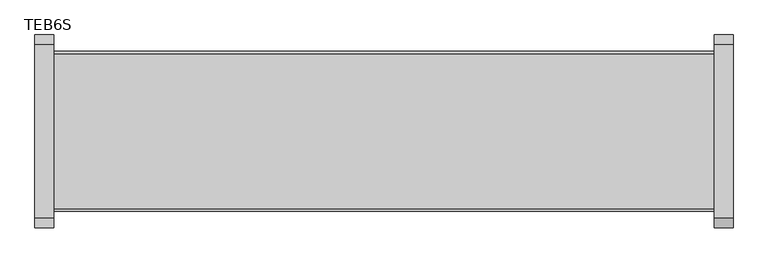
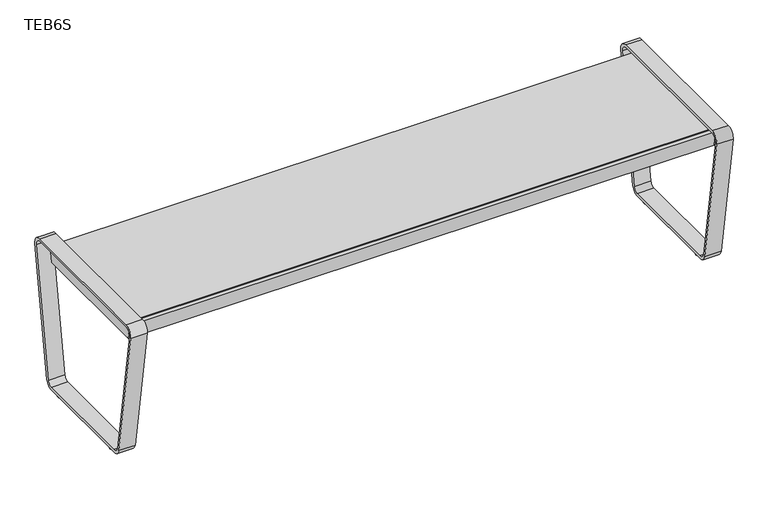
"""IFC4 building model written with IfcOpenShell, lengths in millimetres: furniture geometry, Stance_HC-Terrace-Straight_Bench_Steel : TEB6S."""

from ifc_helpers import new_model, si_unit, point, frame, frame_2d, origin, origin_with_axes, place, context, project, spatial, polyline, circle_curve, trimmed, segment, composite_curve, outline, extrude, source, transform, mapped, element, save


def teb6s_661dd856(model_context):
    return source(origin(), model_context, "Body", "SweptSolid", [
        extrude(outline(polyline([(1455.7375, -50.90414), (1455.7375, -467.25586), (1366.8375, -467.25586), (1366.8375, -50.90414), (1455.7375, -50.90414)])), frame((0.0, 0.0, 432.435), z_axis=(0.0, 0.0, 1.0), x_axis=(1.0, 0.0, 0.0)), (0.0, 0.0, 1.0), 3.175),
        extrude(outline(composite_curve([segment(polyline([(-467.25586, 432.435), (-50.90414, 432.435), (-57.0623598, 397.51)]), True, "CONTINUOUS"), segment(trimmed(circle_curve(frame_2d((-259.08, 1997.8972816)), 1613.0872816), [point((-57.0623598, 397.51))], [point((-461.0976402, 397.51))], False, "CARTESIAN"), True, "CONTINUOUS"), segment(polyline([(-461.0976402, 397.51), (-467.25586, 432.435)]), True, "CONTINUOUS")], self_intersect=False)), frame((1408.8999, 0.0, 0.0), z_axis=(1.0, 0.0, 0.0), x_axis=(0.0, 1.0, 0.0)), (0.0, 0.0, 1.0), 4.7752),
        extrude(outline(polyline([(1219.2, -50.90414), (1219.2, -467.25586), (1130.3, -467.25586), (1130.3, -50.90414), (1219.2, -50.90414)])), frame((0.0, 0.0, 432.435), z_axis=(0.0, 0.0, 1.0), x_axis=(1.0, 0.0, 0.0)), (0.0, 0.0, 1.0), 3.175),
        extrude(outline(composite_curve([segment(polyline([(-467.25586, 432.435), (-50.90414, 432.435), (-57.0623598, 397.51)]), True, "CONTINUOUS"), segment(trimmed(circle_curve(frame_2d((-259.08, 1997.8972816)), 1613.0872816), [point((-57.0623598, 397.51))], [point((-461.0976402, 397.51))], False, "CARTESIAN"), True, "CONTINUOUS"), segment(polyline([(-461.0976402, 397.51), (-467.25586, 432.435)]), True, "CONTINUOUS")], self_intersect=False)), frame((1172.3624, 0.0, 0.0), z_axis=(1.0, 0.0, 0.0), x_axis=(0.0, 1.0, 0.0)), (0.0, 0.0, 1.0), 4.7752),
        extrude(outline(polyline([(982.6625, -50.90414), (982.6625, -467.25586), (893.7625, -467.25586), (893.7625, -50.90414), (982.6625, -50.90414)])), frame((0.0, 0.0, 432.435), z_axis=(0.0, 0.0, 1.0), x_axis=(1.0, 0.0, 0.0)), (0.0, 0.0, 1.0), 3.175),
        extrude(outline(composite_curve([segment(polyline([(-467.25586, 432.435), (-50.90414, 432.435), (-57.0623598, 397.51)]), True, "CONTINUOUS"), segment(trimmed(circle_curve(frame_2d((-259.08, 1997.8972816)), 1613.0872816), [point((-57.0623598, 397.51))], [point((-461.0976402, 397.51))], False, "CARTESIAN"), True, "CONTINUOUS"), segment(polyline([(-461.0976402, 397.51), (-467.25586, 432.435)]), True, "CONTINUOUS")], self_intersect=False)), frame((935.8249, 0.0, 0.0), z_axis=(1.0, 0.0, 0.0), x_axis=(0.0, 1.0, 0.0)), (0.0, 0.0, 1.0), 4.7752),
        extrude(outline(polyline([(746.125, -50.90414), (746.125, -467.25586), (657.225, -467.25586), (657.225, -50.90414), (746.125, -50.90414)])), frame((0.0, 0.0, 432.435), z_axis=(0.0, 0.0, 1.0), x_axis=(1.0, 0.0, 0.0)), (0.0, 0.0, 1.0), 3.175),
        extrude(outline(composite_curve([segment(polyline([(-467.25586, 432.435), (-50.90414, 432.435), (-57.0623598, 397.51)]), True, "CONTINUOUS"), segment(trimmed(circle_curve(frame_2d((-259.08, 1997.8972816)), 1613.0872816), [point((-57.0623598, 397.51))], [point((-461.0976402, 397.51))], False, "CARTESIAN"), True, "CONTINUOUS"), segment(polyline([(-461.0976402, 397.51), (-467.25586, 432.435)]), True, "CONTINUOUS")], self_intersect=False)), frame((699.2874, 0.0, 0.0), z_axis=(1.0, 0.0, 0.0), x_axis=(0.0, 1.0, 0.0)), (0.0, 0.0, 1.0), 4.7752),
        extrude(outline(polyline([(509.5875, -50.90414), (509.5875, -467.25586), (420.6875, -467.25586), (420.6875, -50.90414), (509.5875, -50.90414)])), frame((0.0, 0.0, 432.435), z_axis=(0.0, 0.0, 1.0), x_axis=(1.0, 0.0, 0.0)), (0.0, 0.0, 1.0), 3.175),
        extrude(outline(composite_curve([segment(polyline([(-467.25586, 432.435), (-50.90414, 432.435), (-57.0623598, 397.51)]), True, "CONTINUOUS"), segment(trimmed(circle_curve(frame_2d((-259.08, 1997.8972816)), 1613.0872816), [point((-57.0623598, 397.51))], [point((-461.0976402, 397.51))], False, "CARTESIAN"), True, "CONTINUOUS"), segment(polyline([(-461.0976402, 397.51), (-467.25586, 432.435)]), True, "CONTINUOUS")], self_intersect=False)), frame((462.7499, 0.0, 0.0), z_axis=(1.0, 0.0, 0.0), x_axis=(0.0, 1.0, 0.0)), (0.0, 0.0, 1.0), 4.7752),
        extrude(outline(polyline([(1692.275, -50.90414), (1692.275, -467.25586), (1603.375, -467.25586), (1603.375, -50.90414), (1692.275, -50.90414)])), frame((0.0, 0.0, 432.435), z_axis=(0.0, 0.0, 1.0), x_axis=(1.0, 0.0, 0.0)), (0.0, 0.0, 1.0), 3.175),
        extrude(outline(composite_curve([segment(polyline([(-467.25586, 432.435), (-50.90414, 432.435), (-57.0623598, 397.51)]), True, "CONTINUOUS"), segment(trimmed(circle_curve(frame_2d((-259.08, 1997.8972816)), 1613.0872816), [point((-57.0623598, 397.51))], [point((-461.0976402, 397.51))], False, "CARTESIAN"), True, "CONTINUOUS"), segment(polyline([(-461.0976402, 397.51), (-467.25586, 432.435)]), True, "CONTINUOUS")], self_intersect=False)), frame((1645.4374, 0.0, 0.0), z_axis=(1.0, 0.0, 0.0), x_axis=(0.0, 1.0, 0.0)), (0.0, 0.0, 1.0), 4.7752),
        extrude(outline(polyline([(273.05, -50.90414), (273.05, -467.25586), (184.15, -467.25586), (184.15, -50.90414), (273.05, -50.90414)])), frame((0.0, 0.0, 432.435), z_axis=(0.0, 0.0, 1.0), x_axis=(1.0, 0.0, 0.0)), (0.0, 0.0, 1.0), 3.175),
        extrude(outline(composite_curve([segment(polyline([(-467.25586, 432.435), (-50.90414, 432.435), (-57.0623598, 397.51)]), True, "CONTINUOUS"), segment(trimmed(circle_curve(frame_2d((-259.08, 1997.8972816)), 1613.0872816), [point((-57.0623598, 397.51))], [point((-461.0976402, 397.51))], False, "CARTESIAN"), True, "CONTINUOUS"), segment(polyline([(-461.0976402, 397.51), (-467.25586, 432.435)]), True, "CONTINUOUS")], self_intersect=False)), frame((226.2124, 0.0, 0.0), z_axis=(1.0, 0.0, 0.0), x_axis=(0.0, 1.0, 0.0)), (0.0, 0.0, 1.0), 4.7752),
        extrude(outline(polyline([(-476.5675, 457.8350949), (-41.5925, 457.8350949), (-52.2294419, 397.51), (-465.9305581, 397.51), (-476.5675, 457.8350949)])), frame((1851.025, 0.0, 0.0), z_axis=(1.0, 0.0, 0.0), x_axis=(0.0, 1.0, 0.0)), (0.0, 0.0, 1.0), 6.35),
        extrude(outline(composite_curve([segment(trimmed(circle_curve(frame_2d((1854.2, -399.75536)), 22.225), [point((1876.425, -399.75536))], [point((1831.975, -399.75536))], False, "CARTESIAN"), True, "CONTINUOUS"), segment(trimmed(circle_curve(frame_2d((1854.2, -399.75536)), 22.225), [point((1831.975, -399.75536))], [point((1876.425, -399.75536))], False, "CARTESIAN"), True, "CONTINUOUS")], self_intersect=False)), origin_with_axes(), (0.0, 0.0, 1.0), 6.35),
        extrude(outline(composite_curve([segment(trimmed(circle_curve(frame_2d((1854.2, -118.40464)), 22.225), [point((1876.425, -118.40464))], [point((1831.975, -118.40464))], False, "CARTESIAN"), True, "CONTINUOUS"), segment(trimmed(circle_curve(frame_2d((1854.2, -118.40464)), 22.225), [point((1831.975, -118.40464))], [point((1876.425, -118.40464))], False, "CARTESIAN"), True, "CONTINUOUS")], self_intersect=False)), origin_with_axes(), (0.0, 0.0, 1.0), 6.35),
        extrude(outline(composite_curve([segment(trimmed(circle_curve(frame_2d((-90.0611198, 31.75)), 25.4000949), [point((-64.9737422, 27.7765497))], [point((-90.0611198, 6.3499051))], False, "CARTESIAN"), True, "CONTINUOUS"), segment(polyline([(-90.0611198, 6.3499051), (-428.0988802, 6.3499051)]), True, "CONTINUOUS"), segment(trimmed(circle_curve(frame_2d((-428.0988802, 31.75)), 25.4000949), [point((-428.0988802, 6.3499051))], [point((-453.1862578, 27.7765497))], False, "CARTESIAN"), True, "CONTINUOUS"), segment(polyline([(-453.1862578, 27.7765497), (-518.157139, 437.9865497)]), True, "CONTINUOUS"), segment(trimmed(circle_curve(frame_2d((-493.0697614, 441.96)), 25.4000949), [point((-518.157139, 437.9865497))], [point((-493.0697614, 467.3600949))], False, "CARTESIAN"), True, "CONTINUOUS"), segment(polyline([(-493.0697614, 467.3600949), (-25.0902386, 467.3600949)]), True, "CONTINUOUS"), segment(trimmed(circle_curve(frame_2d((-25.0902386, 441.96)), 25.4000949), [point((-25.0902386, 467.3600949))], [point((-0.002861, 437.9865497))], False, "CARTESIAN"), True, "CONTINUOUS"), segment(polyline([(-0.002861, 437.9865497), (-64.9737422, 27.7765497)]), True, "CONTINUOUS")], self_intersect=False), holes=[composite_curve([segment(trimmed(circle_curve(frame_2d((-493.0697614, 441.96)), 15.8750949), [point((-493.0697614, 457.8350949))], [point((-508.7494076, 439.476588))], True, "CARTESIAN"), True, "CONTINUOUS"), segment(polyline([(-508.7494076, 439.476588), (-443.7785263, 29.266588)]), True, "CONTINUOUS"), segment(trimmed(circle_curve(frame_2d((-428.0988802, 31.75)), 15.8750949), [point((-443.7785263, 29.266588))], [point((-428.0988802, 15.8749051))], True, "CARTESIAN"), True, "CONTINUOUS"), segment(polyline([(-428.0988802, 15.8749051), (-90.0611198, 15.8749051)]), True, "CONTINUOUS"), segment(trimmed(circle_curve(frame_2d((-90.0611198, 31.75)), 15.8750949), [point((-90.0611198, 15.8749051))], [point((-74.3814737, 29.266588))], True, "CARTESIAN"), True, "CONTINUOUS"), segment(polyline([(-74.3814737, 29.266588), (-9.4105924, 439.476588)]), True, "CONTINUOUS"), segment(trimmed(circle_curve(frame_2d((-25.0902386, 441.96)), 15.8750949), [point((-9.4105924, 439.476588))], [point((-25.0902386, 457.8350949))], True, "CARTESIAN"), True, "CONTINUOUS"), segment(polyline([(-25.0902386, 457.8350949), (-493.0697614, 457.8350949)]), True, "CONTINUOUS")], self_intersect=False)]), frame((1828.8, 0.0, 0.0), z_axis=(1.0, 0.0, 0.0), x_axis=(0.0, 1.0, 0.0)), (0.0, 0.0, 1.0), 50.8),
        extrude(outline(polyline([(-476.5675, 457.8350949), (-41.5925, 457.8350949), (-52.2294419, 397.51), (-465.9305581, 397.51), (-476.5675, 457.8350949)])), frame((22.225, 0.0, 0.0), z_axis=(1.0, 0.0, 0.0), x_axis=(0.0, 1.0, 0.0)), (0.0, 0.0, 1.0), 6.35),
        extrude(outline(composite_curve([segment(trimmed(circle_curve(frame_2d((25.4, -399.75536)), 22.225), [point((3.175, -399.75536))], [point((47.625, -399.75536))], False, "CARTESIAN"), True, "CONTINUOUS"), segment(trimmed(circle_curve(frame_2d((25.4, -399.75536)), 22.225), [point((47.625, -399.75536))], [point((3.175, -399.75536))], False, "CARTESIAN"), True, "CONTINUOUS")], self_intersect=False)), origin_with_axes(), (0.0, 0.0, 1.0), 6.35),
        extrude(outline(composite_curve([segment(trimmed(circle_curve(frame_2d((25.4, -118.40464)), 22.225), [point((3.175, -118.40464))], [point((47.625, -118.40464))], False, "CARTESIAN"), True, "CONTINUOUS"), segment(trimmed(circle_curve(frame_2d((25.4, -118.40464)), 22.225), [point((47.625, -118.40464))], [point((3.175, -118.40464))], False, "CARTESIAN"), True, "CONTINUOUS")], self_intersect=False)), origin_with_axes(), (0.0, 0.0, 1.0), 6.35),
        extrude(outline(composite_curve([segment(polyline([(-493.0697614, 467.3600949), (-25.0902386, 467.3600949)]), True, "CONTINUOUS"), segment(trimmed(circle_curve(frame_2d((-25.0902386, 441.96)), 25.4000949), [point((-25.0902386, 467.3600949))], [point((-0.002861, 437.9865497))], False, "CARTESIAN"), True, "CONTINUOUS"), segment(polyline([(-0.002861, 437.9865497), (-64.9737422, 27.7765497)]), True, "CONTINUOUS"), segment(trimmed(circle_curve(frame_2d((-90.0611198, 31.75)), 25.4000949), [point((-64.9737422, 27.7765497))], [point((-90.0611198, 6.3499051))], False, "CARTESIAN"), True, "CONTINUOUS"), segment(polyline([(-90.0611198, 6.3499051), (-428.0988802, 6.3499051)]), True, "CONTINUOUS"), segment(trimmed(circle_curve(frame_2d((-428.0988802, 31.75)), 25.4000949), [point((-428.0988802, 6.3499051))], [point((-453.1862578, 27.7765497))], False, "CARTESIAN"), True, "CONTINUOUS"), segment(polyline([(-453.1862578, 27.7765497), (-518.157139, 437.9865497)]), True, "CONTINUOUS"), segment(trimmed(circle_curve(frame_2d((-493.0697614, 441.96)), 25.4000949), [point((-518.157139, 437.9865497))], [point((-493.0697614, 467.3600949))], False, "CARTESIAN"), True, "CONTINUOUS")], self_intersect=False), holes=[composite_curve([segment(polyline([(-74.3814737, 29.266588), (-9.4105924, 439.476588)]), True, "CONTINUOUS"), segment(trimmed(circle_curve(frame_2d((-25.0902386, 441.96)), 15.8750949), [point((-9.4105924, 439.476588))], [point((-25.0902386, 457.8350949))], True, "CARTESIAN"), True, "CONTINUOUS"), segment(polyline([(-25.0902386, 457.8350949), (-493.0697614, 457.8350949)]), True, "CONTINUOUS"), segment(trimmed(circle_curve(frame_2d((-493.0697614, 441.96)), 15.8750949), [point((-493.0697614, 457.8350949))], [point((-508.7494076, 439.476588))], True, "CARTESIAN"), True, "CONTINUOUS"), segment(polyline([(-508.7494076, 439.476588), (-443.7785263, 29.266588)]), True, "CONTINUOUS"), segment(trimmed(circle_curve(frame_2d((-428.0988802, 31.75)), 15.8750949), [point((-443.7785263, 29.266588))], [point((-428.0988802, 15.8749051))], True, "CARTESIAN"), True, "CONTINUOUS"), segment(polyline([(-428.0988802, 15.8749051), (-90.0611198, 15.8749051)]), True, "CONTINUOUS"), segment(trimmed(circle_curve(frame_2d((-90.0611198, 31.75)), 15.8750949), [point((-90.0611198, 15.8749051))], [point((-74.3814737, 29.266588))], True, "CARTESIAN"), True, "CONTINUOUS")], self_intersect=False)]), frame((0.0, 0.0, 0.0), z_axis=(1.0, 0.0, 0.0), x_axis=(0.0, 1.0, 0.0)), (0.0, 0.0, 1.0), 50.8),
        extrude(outline(polyline([(1851.025, -51.1175), (1851.025, -467.0425), (28.575, -467.0425), (28.575, -51.1175), (1851.025, -51.1175)])), frame((0.0, 0.0, 451.485), z_axis=(0.0, 0.0, 1.0), x_axis=(1.0, 0.0, 0.0)), (0.0, 0.0, 1.0), 3.175),
        extrude(outline(polyline([(-57.0610609, 397.510164), (-461.0989391, 397.510164), (-467.2574614, 432.4368793), (-50.9025386, 432.4368793), (-57.0610609, 397.510164)])), frame((1846.2625, 0.0, 0.0), z_axis=(1.0, 0.0, 0.0), x_axis=(0.0, 1.0, 0.0)), (0.0, 0.0, 1.0), 4.7625),
        extrude(outline(polyline([(-57.0610609, 397.510164), (-461.0989391, 397.510164), (-467.2574614, 432.4368793), (-50.9025386, 432.4368793), (-57.0610609, 397.510164)])), frame((28.575, 0.0, 0.0), z_axis=(1.0, 0.0, 0.0), x_axis=(0.0, 1.0, 0.0)), (0.0, 0.0, 1.0), 4.7625),
        extrude(outline(polyline([(-474.3310721, 445.1343772), (-448.9310721, 445.1343772), (-448.9310721, 440.3718772), (-468.6553456, 440.3718772), (-461.0976402, 397.51), (-465.7877871, 396.6830006), (-474.3310721, 445.1343772)])), frame((28.575, 0.0, 0.0), z_axis=(1.0, 0.0, 0.0), x_axis=(0.0, 1.0, 0.0)), (0.0, 0.0, 1.0), 1822.45),
        extrude(outline(polyline([(-43.8289279, 445.1343772), (-52.3722129, 396.6830006), (-57.0623598, 397.51), (-49.5046544, 440.3718772), (-69.2289279, 440.3718772), (-69.2289279, 445.1343772), (-43.8289279, 445.1343772)])), frame((28.575, 0.0, 0.0), z_axis=(1.0, 0.0, 0.0), x_axis=(0.0, 1.0, 0.0)), (0.0, 0.0, 1.0), 1822.45),
    ])


if __name__ == "__main__":
    model = new_model("IFC4")
    model_context = context("Model", 3, world=origin())
    ifc_project = project(units=[si_unit("LENGTHUNIT", "METRE", prefix="MILLI")], contexts=[model_context])
    site = spatial("IfcSite", under=ifc_project)
    building = spatial("IfcBuilding", under=site)
    placement = place(None, origin())
    teb6s_shape = teb6s_661dd856(model_context)
    element("IfcFurniture", 1, ObjectType="Stance_HC-Terrace-Straight_Bench_Steel : TEB6S", at=placement, inside=building, context=model_context, shape_type="MappedRepresentation", body=[
        mapped(teb6s_shape, transform((0.0, 0.0, 0.0), x_axis=(1.0, 0.0, 0.0), y_axis=(0.0, 1.0, 0.0), z_axis=(0.0, 0.0, 1.0))),
    ])
    save(model, "model.ifc")
